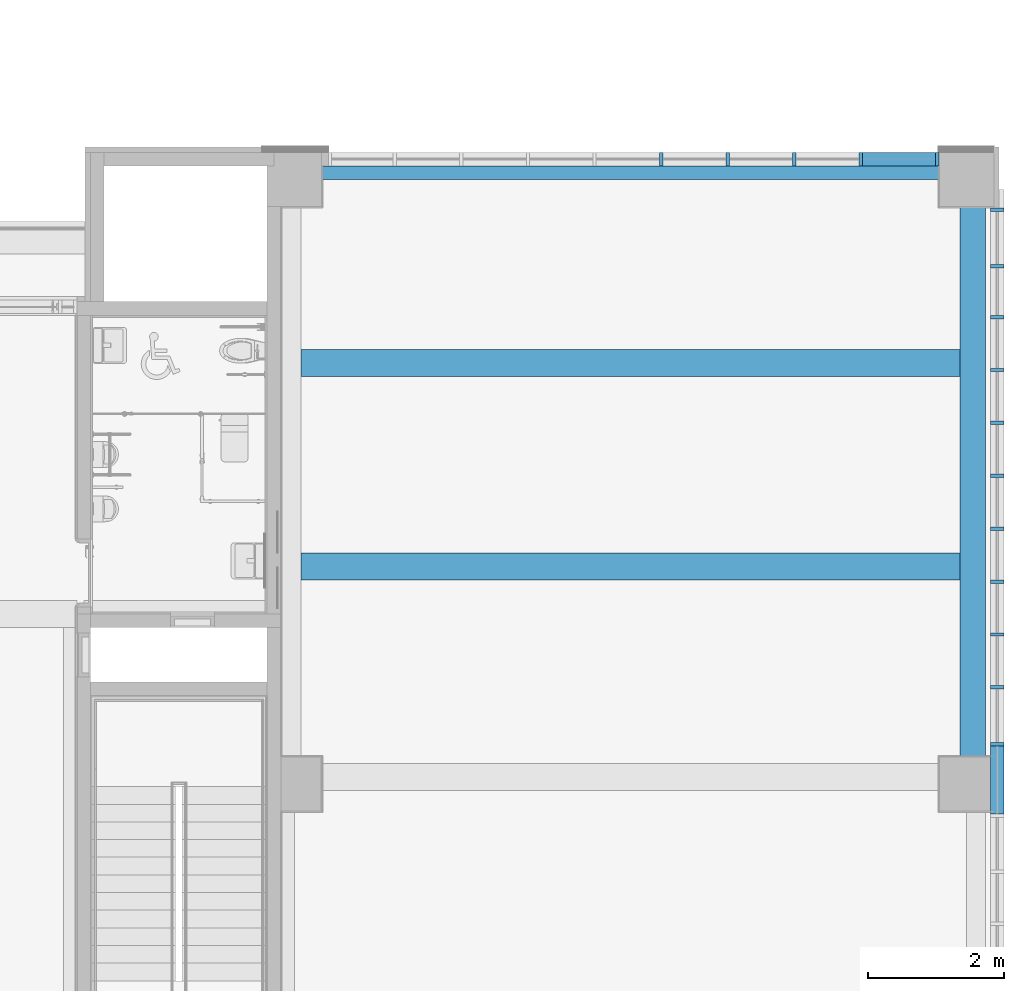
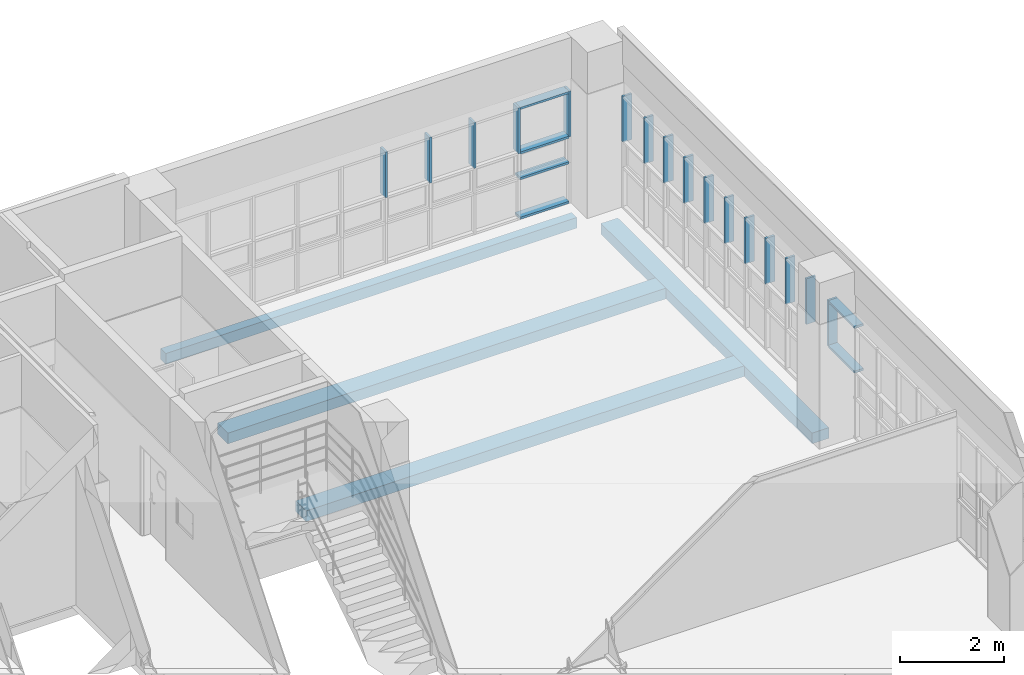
# One storey, part 9 of 76: 22 members, 4 beams, 2 elements without a shape of their own.
"""IFC2X3 building model written with IfcOpenShell, lengths in millimetres."""

from ifc_helpers import new_model, entity, si_unit, converted_unit, derived_unit, direction, frame, frame_2d, origin, origin_2d_with_axis, place, context, subcontext, project, spatial, rectangle, extrude, source, transform, mapped, material, type_object, type_shapes, element, aggregate, save


model = new_model("IFC2X3")

# Units and contexts
model_context = context("Model", 3, precision=0.01, world=origin(), true_north=direction((6.123031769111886e-17, 1.0)))
body_context = subcontext(model_context, "Body", "Model", "MODEL_VIEW")
ifc_project = project(units=[si_unit("LENGTHUNIT", "METRE", prefix="MILLI"), si_unit("AREAUNIT", "SQUARE_METRE"), si_unit("VOLUMEUNIT", "CUBIC_METRE"), converted_unit("PLANEANGLEUNIT", "DEGREE", entity("IfcRatioMeasure", 0.017453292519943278), si_unit("PLANEANGLEUNIT", "RADIAN"), dimensions=[0, 0, 0, 0, 0, 0, 0]), si_unit("MASSUNIT", "GRAM", prefix="KILO"), derived_unit("MASSDENSITYUNIT", [(si_unit("MASSUNIT", "GRAM", prefix="KILO"), 1), (si_unit("LENGTHUNIT", "METRE"), -3)]), derived_unit("MOMENTOFINERTIAUNIT", [(si_unit("LENGTHUNIT", "METRE"), 4)]), si_unit("TIMEUNIT", "SECOND"), si_unit("FREQUENCYUNIT", "HERTZ"), si_unit("THERMODYNAMICTEMPERATUREUNIT", "DEGREE_CELSIUS"), derived_unit("THERMALTRANSMITTANCEUNIT", [(si_unit("MASSUNIT", "GRAM", prefix="KILO"), 1), (si_unit("THERMODYNAMICTEMPERATUREUNIT", "KELVIN"), -1), (si_unit("TIMEUNIT", "SECOND"), -3)]), derived_unit("VOLUMETRICFLOWRATEUNIT", [(si_unit("LENGTHUNIT", "METRE"), 3), (si_unit("TIMEUNIT", "SECOND"), -1)]), derived_unit("MASSFLOWRATEUNIT", [(si_unit("MASSUNIT", "GRAM", prefix="KILO"), 1), (si_unit("TIMEUNIT", "SECOND"), -1)]), derived_unit("ROTATIONALFREQUENCYUNIT", [(si_unit("TIMEUNIT", "SECOND"), -1)]), si_unit("ELECTRICCURRENTUNIT", "AMPERE"), si_unit("ELECTRICVOLTAGEUNIT", "VOLT"), si_unit("POWERUNIT", "WATT"), si_unit("FORCEUNIT", "NEWTON", prefix="KILO"), si_unit("ILLUMINANCEUNIT", "LUX"), si_unit("LUMINOUSFLUXUNIT", "LUMEN"), si_unit("LUMINOUSINTENSITYUNIT", "CANDELA"), derived_unit("USERDEFINED", [(si_unit("MASSUNIT", "GRAM", prefix="KILO"), -1), (si_unit("LENGTHUNIT", "METRE"), -2), (si_unit("TIMEUNIT", "SECOND"), 3), (si_unit("LUMINOUSFLUXUNIT", "LUMEN"), 1)]), derived_unit("SOUNDPOWERUNIT", [(si_unit("MASSUNIT", "GRAM", prefix="KILO"), 1), (si_unit("LENGTHUNIT", "METRE"), 2), (si_unit("TIMEUNIT", "SECOND"), -3)]), derived_unit("SOUNDPRESSUREUNIT", [(si_unit("MASSUNIT", "GRAM", prefix="KILO"), 1), (si_unit("LENGTHUNIT", "METRE"), -1), (si_unit("TIMEUNIT", "SECOND"), -2)]), derived_unit("LINEARVELOCITYUNIT", [(si_unit("LENGTHUNIT", "METRE"), 1), (si_unit("TIMEUNIT", "SECOND"), -1)]), si_unit("PRESSUREUNIT", "PASCAL"), derived_unit("USERDEFINED", [(si_unit("LENGTHUNIT", "METRE"), -2), (si_unit("MASSUNIT", "GRAM", prefix="KILO"), 1), (si_unit("TIMEUNIT", "SECOND"), -2)]), derived_unit("LINEARFORCEUNIT", [(si_unit("MASSUNIT", "GRAM", prefix="KILO"), 1), (si_unit("LENGTHUNIT", "METRE"), 1), (si_unit("TIMEUNIT", "SECOND"), -2), (si_unit("LENGTHUNIT", "METRE"), -1)]), derived_unit("PLANARFORCEUNIT", [(si_unit("MASSUNIT", "GRAM", prefix="KILO"), 1), (si_unit("LENGTHUNIT", "METRE"), 1), (si_unit("TIMEUNIT", "SECOND"), -2), (si_unit("LENGTHUNIT", "METRE"), -2)])], contexts=[model_context])

# Site, building, storey
site_placement = place(None, frame((-14167.972527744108, -657.2125860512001, 0.0)))
site = spatial("IfcSite", under=ifc_project, at=site_placement, Name="Default", CompositionType="ELEMENT")
building_placement = place(site_placement, origin())
building = spatial("IfcBuilding", under=site, at=building_placement, Name="Sample Building", CompositionType="ELEMENT")
storey_placement = place(building_placement, frame((0.0, 0.0, 9300.0)))
storey = spatial("IfcBuildingStorey", under=building, at=storey_placement, Name="지상 3층", CompositionType="ELEMENT", Elevation=9300.000000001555)

# Curtain wall, members
curtain_wall_type = type_object("IfcCurtainWallType", Name="커튼월:CW112-스테인리스 스틸 커튼월", PredefinedType="NOTDEFINED")
curtain_wall_1_placement = place(storey_placement, frame((0.0, 0.0, -9300.0)))
curtain_wall_1 = element("IfcCurtainWall", 1, at=curtain_wall_1_placement, inside=storey, type_object=curtain_wall_type, Name="커튼월:CW112-스테인리스 스틸 커튼월", ObjectType="커튼월:CW112-스테인리스 스틸 커튼월")
ifc_material_1 = material(Name="<Unnamed>")
member_type_1 = type_object("IfcMemberType", Name="직사각형 멀리언:CW200-직사각형 멀리언 50x200mm", PredefinedType="MULLION", material=ifc_material_1)
shared_shape_1 = source(origin(), body_context, "Body", "SweptSolid", [
    extrude(rectangle(XDim=200.0, YDim=50.0, at=origin_2d_with_axis()), frame((0.0, 0.0, -1070.0), z_axis=(0.0, 0.0, 1.0), x_axis=(0.0, -1.0, 0.0)), (0.0, 0.0, 1.0), 1070.000000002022),
])
type_shapes(member_type_1, [shared_shape_1])
member_1_placement = place(curtain_wall_1_placement, frame((49507.96556020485, 29157.212295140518, 10930.0), z_axis=(0.0, 0.0, -1.0), x_axis=(-1.0, 0.0, 0.0)))
member_1 = element("IfcMember", 2, at=member_1_placement, type_object=member_type_1, material=ifc_material_1, Name="직사각형 멀리언:CW200-직사각형 멀리언 50x200mm", ObjectType="직사각형 멀리언:CW200-직사각형 멀리언 50x200mm", context=body_context, shape_type="MappedRepresentation", body=[
    mapped(shared_shape_1, transform((0.0, 0.0, 0.0), scale=1.0)),
])
member_2_placement = place(curtain_wall_1_placement, frame((48527.96642584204, 29157.212295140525, 10930.0), z_axis=(0.0, 0.0, -1.0), x_axis=(-1.0, 0.0, 0.0)))
member_2 = element("IfcMember", 3, at=member_2_placement, type_object=member_type_1, material=ifc_material_1, Name="직사각형 멀리언:CW200-직사각형 멀리언 50x200mm", ObjectType="직사각형 멀리언:CW200-직사각형 멀리언 50x200mm", context=body_context, shape_type="MappedRepresentation", body=[
    mapped(shared_shape_1, transform((0.0, 0.0, 0.0), scale=1.0)),
])
member_3_placement = place(curtain_wall_1_placement, frame((47547.967291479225, 29157.212295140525, 10930.0), z_axis=(0.0, 0.0, -1.0), x_axis=(-1.0, 0.0, 0.0)))
member_3 = element("IfcMember", 4, at=member_3_placement, type_object=member_type_1, material=ifc_material_1, Name="직사각형 멀리언:CW200-직사각형 멀리언 50x200mm", ObjectType="직사각형 멀리언:CW200-직사각형 멀리언 50x200mm", context=body_context, shape_type="MappedRepresentation", body=[
    mapped(shared_shape_1, transform((0.0, 0.0, 0.0), scale=1.0)),
])
member_4_placement = place(curtain_wall_1_placement, frame((46567.96815711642, 29157.21229514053, 10930.0), z_axis=(0.0, 0.0, -1.0), x_axis=(-1.0, 0.0, 0.0)))
member_4 = element("IfcMember", 5, at=member_4_placement, type_object=member_type_1, material=ifc_material_1, Name="직사각형 멀리언:CW200-직사각형 멀리언 50x200mm", ObjectType="직사각형 멀리언:CW200-직사각형 멀리언 50x200mm", context=body_context, shape_type="MappedRepresentation", body=[
    mapped(shared_shape_1, transform((0.0, 0.0, 0.0), scale=1.0)),
])

curtain_wall_2_placement = place(storey_placement, frame((0.0, 0.0, -9300.0)))
curtain_wall_2 = element("IfcCurtainWall", 6, at=curtain_wall_2_placement, inside=storey, type_object=curtain_wall_type, Name="커튼월:CW112-스테인리스 스틸 커튼월", ObjectType="커튼월:CW112-스테인리스 스틸 커튼월")
member_type_2 = type_object("IfcMemberType", Name="직사각형 멀리언:CW200-직사각형 멀리언 50x200mm", PredefinedType="MULLION", material=ifc_material_1)
shared_shape_2 = source(origin(), body_context, "Body", "SweptSolid", [
    extrude(rectangle(XDim=200.0, YDim=50.0, at=origin_2d_with_axis()), frame((-25.0, 0.0, -1070.0), z_axis=(0.0, 0.0, 1.0), x_axis=(0.0, -1.0, 0.0)), (0.0, 0.0, 1.0), 1070.000000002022),
])
type_shapes(member_type_2, [shared_shape_2])
member_5_placement = place(curtain_wall_2_placement, frame((51517.96382893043, 28439.212395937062, 12000.0), z_axis=(0.0, 0.0, 1.0), x_axis=(0.0, 1.0, 0.0)))
member_5 = element("IfcMember", 7, at=member_5_placement, type_object=member_type_2, material=ifc_material_1, Name="직사각형 멀리언:CW200-직사각형 멀리언 50x200mm", ObjectType="직사각형 멀리언:CW200-직사각형 멀리언 50x200mm", context=body_context, shape_type="MappedRepresentation", body=[
    mapped(shared_shape_2, transform((0.0, 0.0, 0.0), scale=1.0)),
])
member_type_3 = type_object("IfcMemberType", Name="직사각형 멀리언:CW200-직사각형 멀리언 50x200mm", PredefinedType="MULLION", material=ifc_material_1)
shared_shape_3 = source(origin(), body_context, "Body", "SweptSolid", [
    extrude(rectangle(XDim=200.0, YDim=50.0, at=origin_2d_with_axis()), frame((0.0, 0.0, -1070.0), z_axis=(0.0, 0.0, 1.0), x_axis=(0.0, -1.0, 0.0)), (0.0, 0.0, 1.0), 1070.000000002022),
])
type_shapes(member_type_3, [shared_shape_3])
member_6_placement = place(curtain_wall_2_placement, frame((51517.96382893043, 27580.817707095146, 10930.0), z_axis=(0.0, 0.0, -1.0), x_axis=(0.0, -1.0, 0.0)))
member_6 = element("IfcMember", 8, at=member_6_placement, type_object=member_type_3, material=ifc_material_1, Name="직사각형 멀리언:CW200-직사각형 멀리언 50x200mm", ObjectType="직사각형 멀리언:CW200-직사각형 멀리언 50x200mm", context=body_context, shape_type="MappedRepresentation", body=[
    mapped(shared_shape_3, transform((0.0, 0.0, 0.0), scale=1.0)),
])
member_7_placement = place(curtain_wall_2_placement, frame((51517.96382893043, 26830.81770709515, 10930.0), z_axis=(0.0, 0.0, -1.0), x_axis=(0.0, -1.0, 0.0)))
member_7 = element("IfcMember", 9, at=member_7_placement, type_object=member_type_3, material=ifc_material_1, Name="직사각형 멀리언:CW200-직사각형 멀리언 50x200mm", ObjectType="직사각형 멀리언:CW200-직사각형 멀리언 50x200mm", context=body_context, shape_type="MappedRepresentation", body=[
    mapped(shared_shape_3, transform((0.0, 0.0, 0.0), scale=1.0)),
])
member_8_placement = place(curtain_wall_2_placement, frame((51517.96382893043, 25272.81770709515, 10930.0), z_axis=(0.0, 0.0, -1.0), x_axis=(0.0, -1.0, 0.0)))
member_8 = element("IfcMember", 10, at=member_8_placement, type_object=member_type_3, material=ifc_material_1, Name="직사각형 멀리언:CW200-직사각형 멀리언 50x200mm", ObjectType="직사각형 멀리언:CW200-직사각형 멀리언 50x200mm", context=body_context, shape_type="MappedRepresentation", body=[
    mapped(shared_shape_3, transform((0.0, 0.0, 0.0), scale=1.0)),
])
member_9_placement = place(curtain_wall_2_placement, frame((51517.96382893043, 24493.81770709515, 10930.0), z_axis=(0.0, 0.0, -1.0), x_axis=(0.0, -1.0, 0.0)))
member_9 = element("IfcMember", 11, at=member_9_placement, type_object=member_type_3, material=ifc_material_1, Name="직사각형 멀리언:CW200-직사각형 멀리언 50x200mm", ObjectType="직사각형 멀리언:CW200-직사각형 멀리언 50x200mm", context=body_context, shape_type="MappedRepresentation", body=[
    mapped(shared_shape_3, transform((0.0, 0.0, 0.0), scale=1.0)),
])
member_10_placement = place(curtain_wall_2_placement, frame((51517.96382893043, 23714.817707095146, 10930.0), z_axis=(0.0, 0.0, -1.0), x_axis=(0.0, -1.0, 0.0)))
member_10 = element("IfcMember", 12, at=member_10_placement, type_object=member_type_3, material=ifc_material_1, Name="직사각형 멀리언:CW200-직사각형 멀리언 50x200mm", ObjectType="직사각형 멀리언:CW200-직사각형 멀리언 50x200mm", context=body_context, shape_type="MappedRepresentation", body=[
    mapped(shared_shape_3, transform((0.0, 0.0, 0.0), scale=1.0)),
])
member_11_placement = place(curtain_wall_2_placement, frame((51517.963828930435, 22935.817707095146, 10930.0), z_axis=(0.0, 0.0, -1.0), x_axis=(0.0, -1.0, 0.0)))
member_11 = element("IfcMember", 13, at=member_11_placement, type_object=member_type_3, material=ifc_material_1, Name="직사각형 멀리언:CW200-직사각형 멀리언 50x200mm", ObjectType="직사각형 멀리언:CW200-직사각형 멀리언 50x200mm", context=body_context, shape_type="MappedRepresentation", body=[
    mapped(shared_shape_3, transform((0.0, 0.0, 0.0), scale=1.0)),
])
member_12_placement = place(curtain_wall_2_placement, frame((51517.963828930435, 22156.817707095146, 10930.0), z_axis=(0.0, 0.0, -1.0), x_axis=(0.0, -1.0, 0.0)))
member_12 = element("IfcMember", 14, at=member_12_placement, type_object=member_type_3, material=ifc_material_1, Name="직사각형 멀리언:CW200-직사각형 멀리언 50x200mm", ObjectType="직사각형 멀리언:CW200-직사각형 멀리언 50x200mm", context=body_context, shape_type="MappedRepresentation", body=[
    mapped(shared_shape_3, transform((0.0, 0.0, 0.0), scale=1.0)),
])
member_13_placement = place(curtain_wall_2_placement, frame((51517.963828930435, 21377.817707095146, 10930.0), z_axis=(0.0, 0.0, -1.0), x_axis=(0.0, -1.0, 0.0)))
member_13 = element("IfcMember", 15, at=member_13_placement, type_object=member_type_3, material=ifc_material_1, Name="직사각형 멀리언:CW200-직사각형 멀리언 50x200mm", ObjectType="직사각형 멀리언:CW200-직사각형 멀리언 50x200mm", context=body_context, shape_type="MappedRepresentation", body=[
    mapped(shared_shape_3, transform((0.0, 0.0, 0.0), scale=1.0)),
])
member_14_placement = place(curtain_wall_2_placement, frame((51517.963828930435, 20538.817707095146, 10930.0), z_axis=(0.0, 0.0, -1.0), x_axis=(0.0, -1.0, 0.0)))
member_14 = element("IfcMember", 16, at=member_14_placement, type_object=member_type_3, material=ifc_material_1, Name="직사각형 멀리언:CW200-직사각형 멀리언 50x200mm", ObjectType="직사각형 멀리언:CW200-직사각형 멀리언 50x200mm", context=body_context, shape_type="MappedRepresentation", body=[
    mapped(shared_shape_3, transform((0.0, 0.0, 0.0), scale=1.0)),
])
member_type_4 = type_object("IfcMemberType", Name="직사각형 멀리언:CW200-직사각형 멀리언 50x200mm", PredefinedType="MULLION", material=ifc_material_1)
shared_shape_4 = source(origin(), body_context, "Body", "SweptSolid", [
    extrude(rectangle(XDim=200.0, YDim=50.0, at=origin_2d_with_axis()), frame((0.0, 0.0, -1000.0), z_axis=(0.0, 0.0, 1.0), x_axis=(0.0, -1.0, 0.0)), (0.0, 0.0, 1.0), 1000.0000000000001),
])
type_shapes(member_type_4, [shared_shape_4])
member_15_placement = place(curtain_wall_2_placement, frame((51517.963828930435, 19513.817707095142, 10930.0), z_axis=(0.0, -1.0, 0.0), x_axis=(0.0, 0.0, 1.0)))
member_15 = element("IfcMember", 17, at=member_15_placement, type_object=member_type_4, material=ifc_material_1, Name="직사각형 멀리언:CW200-직사각형 멀리언 50x200mm", ObjectType="직사각형 멀리언:CW200-직사각형 멀리언 50x200mm", context=body_context, shape_type="MappedRepresentation", body=[
    mapped(shared_shape_4, transform((0.0, 0.0, 0.0), scale=1.0)),
])
member_type_5 = type_object("IfcMemberType", Name="직사각형 멀리언:CW200-직사각형 멀리언 50x200mm", PredefinedType="MULLION", material=ifc_material_1)
shared_shape_5 = source(origin(), body_context, "Body", "SweptSolid", [
    extrude(rectangle(XDim=200.0, YDim=50.0, at=origin_2d_with_axis()), frame((-25.0, 0.0, -1000.0), z_axis=(0.0, 0.0, 1.0), x_axis=(0.0, -1.0, 0.0)), (0.0, 0.0, 1.0), 1000.0000000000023),
])
type_shapes(member_type_5, [shared_shape_5])
member_16_placement = place(curtain_wall_2_placement, frame((51517.963828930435, 19513.817707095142, 12000.0), z_axis=(0.0, -1.0, 0.0), x_axis=(0.0, 0.0, 1.0)))
member_16 = element("IfcMember", 18, at=member_16_placement, type_object=member_type_5, material=ifc_material_1, Name="직사각형 멀리언:CW200-직사각형 멀리언 50x200mm", ObjectType="직사각형 멀리언:CW200-직사각형 멀리언 50x200mm", context=body_context, shape_type="MappedRepresentation", body=[
    mapped(shared_shape_5, transform((0.0, 0.0, 0.0), scale=1.0)),
])
member_type_6 = type_object("IfcMemberType", Name="직사각형 멀리언:CW200-직사각형 멀리언 50x200mm", PredefinedType="MULLION", material=ifc_material_1)
shared_shape_6 = source(origin(), body_context, "Body", "SweptSolid", [
    extrude(rectangle(XDim=200.0, YDim=50.0, at=origin_2d_with_axis()), frame((0.0, 0.0, -1070.0), z_axis=(0.0, 0.0, 1.0), x_axis=(0.0, -1.0, 0.0)), (0.0, 0.0, 1.0), 1070.000000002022),
])
type_shapes(member_type_6, [shared_shape_6])
member_17_placement = place(curtain_wall_2_placement, frame((51517.96382893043, 26051.81770709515, 10930.0), z_axis=(0.0, 0.0, -1.0), x_axis=(0.0, -1.0, 0.0)))
member_17 = element("IfcMember", 19, at=member_17_placement, type_object=member_type_6, material=ifc_material_1, Name="직사각형 멀리언:CW200-직사각형 멀리언 50x200mm", ObjectType="직사각형 멀리언:CW200-직사각형 멀리언 50x200mm", context=body_context, shape_type="MappedRepresentation", body=[
    mapped(shared_shape_6, transform((0.0, 0.0, 0.0), scale=1.0)),
])
aggregate(curtain_wall_2, [member_5, member_6, member_7, member_8, member_9, member_10, member_11, member_12, member_13, member_15, member_14, member_16, member_17])

# Member
member_type_7 = type_object("IfcMemberType", Name="직사각형 멀리언:CW200-직사각형 멀리언 50x200mm", PredefinedType="MULLION", material=ifc_material_1)
shared_shape_7 = source(origin(), body_context, "Body", "SweptSolid", [
    extrude(rectangle(XDim=200.0, YDim=50.0, at=origin_2d_with_axis()), frame((-25.0, 0.0, -1076.0156546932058), z_axis=(0.0, 0.0, 1.0), x_axis=(0.0, -1.0, 0.0)), (0.0, 0.0, 1.0), 1076.0156546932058),
])
type_shapes(member_type_7, [shared_shape_7])
member_18_placement = place(curtain_wall_1_placement, frame((50608.981214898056, 29157.212295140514, 9380.0), z_axis=(1.0, 0.0, 0.0), x_axis=(0.0, 0.0, -1.0)))
member_18 = element("IfcMember", 20, at=member_18_placement, type_object=member_type_7, material=ifc_material_1, Name="직사각형 멀리언:CW200-직사각형 멀리언 50x200mm", ObjectType="직사각형 멀리언:CW200-직사각형 멀리언 50x200mm", context=body_context, shape_type="MappedRepresentation", body=[
    mapped(shared_shape_7, transform((0.0, 0.0, 0.0), scale=1.0)),
])

member_type_8 = type_object("IfcMemberType", Name="직사각형 멀리언:CW200-직사각형 멀리언 50x200mm", PredefinedType="MULLION", material=ifc_material_1)
shared_shape_8 = source(origin(), body_context, "Body", "SweptSolid", [
    extrude(rectangle(XDim=200.0, YDim=50.0, at=origin_2d_with_axis()), frame((-25.0, 0.0, -1070.0), z_axis=(0.0, 0.0, 1.0), x_axis=(0.0, -1.0, 0.0)), (0.0, 0.0, 1.0), 1070.000000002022),
])
type_shapes(member_type_8, [shared_shape_8])
member_19_placement = place(curtain_wall_1_placement, frame((50658.981214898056, 29157.212295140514, 12000.0)))
member_19 = element("IfcMember", 21, at=member_19_placement, type_object=member_type_8, material=ifc_material_1, Name="직사각형 멀리언:CW200-직사각형 멀리언 50x200mm", ObjectType="직사각형 멀리언:CW200-직사각형 멀리언 50x200mm", context=body_context, shape_type="MappedRepresentation", body=[
    mapped(shared_shape_8, transform((0.0, 0.0, 0.0), scale=1.0)),
])

member_type_9 = type_object("IfcMemberType", Name="직사각형 멀리언:CW200-직사각형 멀리언 50x200mm", PredefinedType="MULLION", material=ifc_material_1)
shared_shape_9 = source(origin(), body_context, "Body", "SweptSolid", [
    extrude(rectangle(XDim=200.0, YDim=50.0, at=origin_2d_with_axis()), frame((0.0, 0.0, -1076.0156546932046), z_axis=(0.0, 0.0, 1.0), x_axis=(0.0, -1.0, 0.0)), (0.0, 0.0, 1.0), 1076.0156546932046),
])
type_shapes(member_type_9, [shared_shape_9])
member_20_placement = place(curtain_wall_1_placement, frame((49532.96556020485, 29157.212295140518, 10330.0), z_axis=(-1.0, 0.0, 0.0), x_axis=(0.0, 0.0, 1.0)))
member_20 = element("IfcMember", 22, at=member_20_placement, type_object=member_type_9, material=ifc_material_1, Name="직사각형 멀리언:CW200-직사각형 멀리언 50x200mm", ObjectType="직사각형 멀리언:CW200-직사각형 멀리언 50x200mm", context=body_context, shape_type="MappedRepresentation", body=[
    mapped(shared_shape_9, transform((0.0, 0.0, 0.0), scale=1.0)),
])

member_21_placement = place(curtain_wall_1_placement, frame((49532.96556020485, 29157.212295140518, 10930.0), z_axis=(-1.0, 0.0, 0.0), x_axis=(0.0, 0.0, 1.0)))
member_21 = element("IfcMember", 23, at=member_21_placement, type_object=member_type_9, material=ifc_material_1, Name="직사각형 멀리언:CW200-직사각형 멀리언 50x200mm", ObjectType="직사각형 멀리언:CW200-직사각형 멀리언 50x200mm", context=body_context, shape_type="MappedRepresentation", body=[
    mapped(shared_shape_9, transform((0.0, 0.0, 0.0), scale=1.0)),
])

member_type_10 = type_object("IfcMemberType", Name="직사각형 멀리언:CW200-직사각형 멀리언 50x200mm", PredefinedType="MULLION", material=ifc_material_1)
shared_shape_10 = source(origin(), body_context, "Body", "SweptSolid", [
    extrude(rectangle(XDim=200.0, YDim=50.0, at=origin_2d_with_axis()), frame((-25.0, 0.0, -1076.0156546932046), z_axis=(0.0, 0.0, 1.0), x_axis=(0.0, -1.0, 0.0)), (0.0, 0.0, 1.0), 1076.0156546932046),
])
type_shapes(member_type_10, [shared_shape_10])
member_22_placement = place(curtain_wall_1_placement, frame((49532.96556020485, 29157.212295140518, 12000.0), z_axis=(-1.0, 0.0, 0.0), x_axis=(0.0, 0.0, 1.0)))
member_22 = element("IfcMember", 24, at=member_22_placement, type_object=member_type_10, material=ifc_material_1, Name="직사각형 멀리언:CW200-직사각형 멀리언 50x200mm", ObjectType="직사각형 멀리언:CW200-직사각형 멀리언 50x200mm", context=body_context, shape_type="MappedRepresentation", body=[
    mapped(shared_shape_10, transform((0.0, 0.0, 0.0), scale=1.0)),
])

aggregate(curtain_wall_1, [member_18, member_19, member_20, member_21, member_22, member_1, member_2, member_3, member_4])

# Beams
ifc_material_2 = material(Name="KBIMS-콘크리트")
beam_type_1 = type_object("IfcBeamType", Name="BM111-철근콘크리트구조 보:BM110-철근 콘크리트구조 보_400 x 400_2-10G1", PredefinedType="NOTDEFINED")
beam_1_placement = place(storey_placement, frame((41017.97260749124, 29057.212617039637, 0.0)))
element("IfcBeam", 25, at=beam_1_placement, inside=storey, type_object=beam_type_1, material=ifc_material_2, Name="BM111-철근콘크리트구조 보:BM110-철근 콘크리트구조 보_400 x 400_2-10G1", ObjectType="BM111-철근콘크리트구조 보:BM110-철근 콘크리트구조 보_400 x 400_2-10G1", context=body_context, shape_type="SweptSolid", body=[
    extrude(rectangle(XDim=250.00000000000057, YDim=199.99967810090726, at=frame_2d((5.400124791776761e-13, -2.1657342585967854e-11), x_axis=(1.0, 0.0))), frame((549.9825342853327, -100.0001609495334, -275.0), z_axis=(1.0, 0.0, 0.0), x_axis=(0.0, 0.0, -1.0)), (0.0, 0.0, 1.0), 9100.008723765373),
])
beam_type_2 = type_object("IfcBeamType", Name="BM111-철근콘크리트구조 보:BM110-철근 콘크리트구조 보_400 x 400_2-10B1", PredefinedType="NOTDEFINED")
beam_2_placement = place(storey_placement, frame((41017.972607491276, 23157.2124262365, 0.0)))
element("IfcBeam", 26, at=beam_2_placement, inside=storey, type_object=beam_type_2, material=ifc_material_2, Name="BM111-철근콘크리트구조 보:BM110-철근 콘크리트구조 보_400 x 400_2-10B1", ObjectType="BM111-철근콘크리트구조 보:BM110-철근 콘크리트구조 보_400 x 400_2-10B1", context=body_context, shape_type="SweptSolid", body=[
    extrude(rectangle(XDim=250.00000000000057, YDim=400.0000000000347, at=frame_2d((5.400124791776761e-13, -2.3817392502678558e-11), x_axis=(1.0, 0.0))), frame((250.0, 0.0, -275.0), z_axis=(1.0, 0.0, 0.0), x_axis=(0.0, 0.0, -1.0)), (0.0, 0.0, 1.0), 9699.98253428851),
])
beam_3_placement = place(storey_placement, frame((41017.97260749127, 26157.212426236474, 0.0)))
element("IfcBeam", 27, at=beam_3_placement, inside=storey, type_object=beam_type_2, material=ifc_material_2, Name="BM111-철근콘크리트구조 보:BM110-철근 콘크리트구조 보_400 x 400_2-10B1", ObjectType="BM111-철근콘크리트구조 보:BM110-철근 콘크리트구조 보_400 x 400_2-10B1", context=body_context, shape_type="SweptSolid", body=[
    extrude(rectangle(XDim=250.00000000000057, YDim=400.00000000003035, at=frame_2d((5.400124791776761e-13, -1.7323031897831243e-11), x_axis=(1.0, 0.0))), frame((250.0, 0.0, -275.0), z_axis=(1.0, 0.0, 0.0), x_axis=(0.0, 0.0, -1.0)), (0.0, 0.0, 1.0), 9699.982534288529),
])
beam_type_3 = type_object("IfcBeamType", Name="BM111-철근콘크리트구조 보:BM110-철근 콘크리트구조 보_500 x 400_2-10G5", PredefinedType="NOTDEFINED")
beam_4_placement = place(storey_placement, frame((51217.955141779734, 28457.212620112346, 0.0), z_axis=(0.0, 0.0, 1.0), x_axis=(0.0, -1.0, 0.0)))
element("IfcBeam", 28, at=beam_4_placement, inside=storey, type_object=beam_type_3, material=ifc_material_2, Name="BM111-철근콘크리트구조 보:BM110-철근 콘크리트구조 보_500 x 400_2-10G5", ObjectType="BM111-철근콘크리트구조 보:BM110-철근 콘크리트구조 보_500 x 400_2-10G5", context=body_context, shape_type="SweptSolid", body=[
    extrude(rectangle(XDim=250.00000000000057, YDim=375.0086871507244, at=frame_2d((5.400124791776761e-13, -1.7323031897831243e-11), x_axis=(1.0, 0.0))), frame((0.0, -62.49565642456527, -275.0), z_axis=(1.0, 0.0, 0.0), x_axis=(0.0, 0.0, -1.0)), (0.0, 0.0, 1.0), 8100.000003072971),
])

save(model, "model.ifc")
